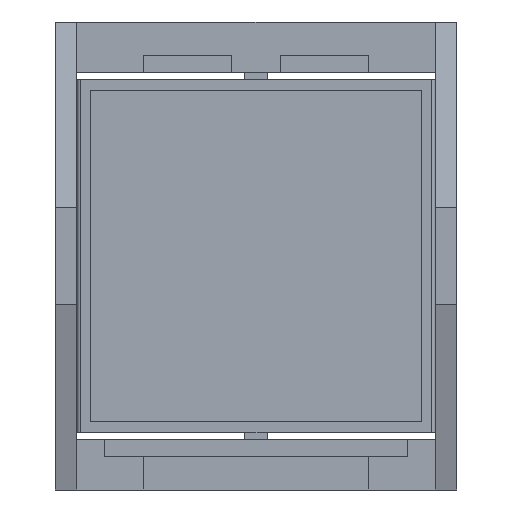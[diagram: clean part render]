
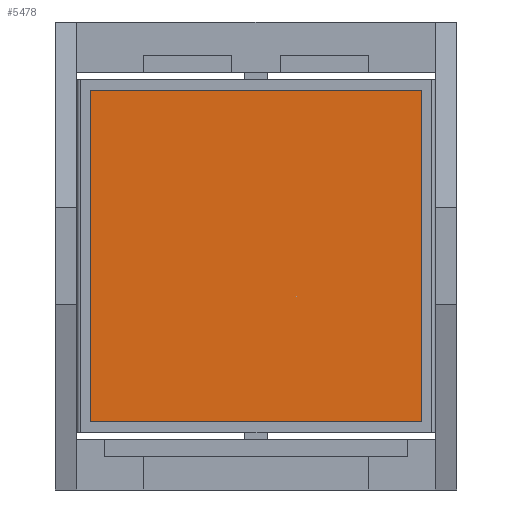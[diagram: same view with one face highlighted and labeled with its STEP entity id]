
A CAD part, front view. The second image highlights one B-rep face of the part: STEP entity #5478.
In plain terms, the highlighted planar face has unit normal (0, -1, 0).
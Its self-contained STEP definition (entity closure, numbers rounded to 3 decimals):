
#85 = DIRECTION ( 'NONE',  ( 0., 0., 1. ) ) ;
#450 = CARTESIAN_POINT ( 'NONE',  ( -6.395, -7.836, -8.193 ) ) ;
#527 = LINE ( 'NONE', #3846, #2676 ) ;
#890 = DIRECTION ( 'NONE',  ( 0., 0., 1. ) ) ;
#962 = VECTOR ( 'NONE', #7085, 1000. ) ;
#964 = DIRECTION ( 'NONE',  ( 0., -1., 0. ) ) ;
#1065 = VECTOR ( 'NONE', #2507, 1000. ) ;
#1196 = LINE ( 'NONE', #4041, #3854 ) ;
#1290 = CARTESIAN_POINT ( 'NONE',  ( -6.395, -7.836, 13.807 ) ) ;
#1358 = EDGE_CURVE ( 'NONE', #1488, #5927, #1196, .T. ) ;
#1448 = EDGE_CURVE ( 'NONE', #6350, #1488, #5297, .T. ) ;
#1488 = VERTEX_POINT ( 'NONE', #2504 ) ;
#1591 = DIRECTION ( 'NONE',  ( -1., 0., 0. ) ) ;
#1739 = VERTEX_POINT ( 'NONE', #1290 ) ;
#1908 = CARTESIAN_POINT ( 'NONE',  ( 15.605, -7.836, -8.193 ) ) ;
#2494 = CARTESIAN_POINT ( 'NONE',  ( -6.395, -7.836, -8.193 ) ) ;
#2504 = CARTESIAN_POINT ( 'NONE',  ( 15.605, -7.836, -8.193 ) ) ;
#2507 = DIRECTION ( 'NONE',  ( 1., 0., 0. ) ) ;
#2676 = VECTOR ( 'NONE', #1591, 1000. ) ;
#2712 = CARTESIAN_POINT ( 'NONE',  ( 15.605, -7.836, 13.807 ) ) ;
#3089 = LINE ( 'NONE', #450, #962 ) ;
#3686 = PLANE ( 'NONE',  #3993 ) ;
#3846 = CARTESIAN_POINT ( 'NONE',  ( 15.605, -7.836, 13.807 ) ) ;
#3854 = VECTOR ( 'NONE', #85, 1000. ) ;
#3975 = ORIENTED_EDGE ( 'NONE', *, *, #6153, .T. ) ;
#3993 = AXIS2_PLACEMENT_3D ( 'NONE', #5955, #964, #890 ) ;
#4041 = CARTESIAN_POINT ( 'NONE',  ( 15.605, -7.836, -8.193 ) ) ;
#4674 = ORIENTED_EDGE ( 'NONE', *, *, #1448, .T. ) ;
#4725 = ORIENTED_EDGE ( 'NONE', *, *, #5069, .T. ) ;
#4985 = EDGE_LOOP ( 'NONE', ( #5965, #4725, #3975, #4674 ) ) ;
#5069 = EDGE_CURVE ( 'NONE', #5927, #1739, #527, .T. ) ;
#5297 = LINE ( 'NONE', #1908, #1065 ) ;
#5478 = ADVANCED_FACE ( 'NONE', ( #7035 ), #3686, .T. ) ;
#5927 = VERTEX_POINT ( 'NONE', #2712 ) ;
#5955 = CARTESIAN_POINT ( 'NONE',  ( 15.605, -7.836, 13.807 ) ) ;
#5965 = ORIENTED_EDGE ( 'NONE', *, *, #1358, .T. ) ;
#6153 = EDGE_CURVE ( 'NONE', #1739, #6350, #3089, .T. ) ;
#6350 = VERTEX_POINT ( 'NONE', #2494 ) ;
#7035 = FACE_OUTER_BOUND ( 'NONE', #4985, .T. ) ;
#7085 = DIRECTION ( 'NONE',  ( 0., 0., -1. ) ) ;
